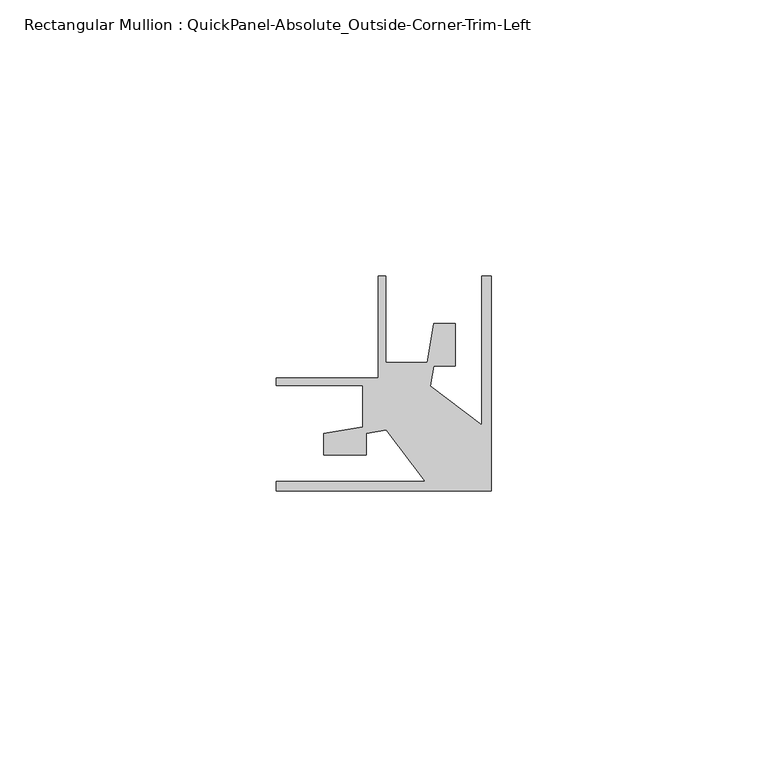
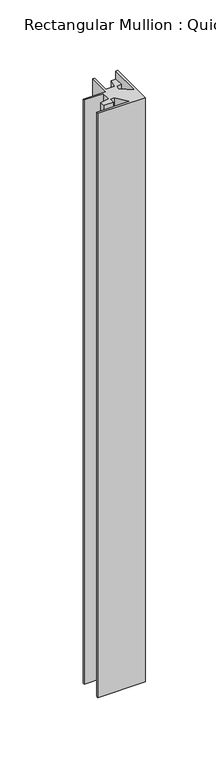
"""IFC4 building model written with IfcOpenShell, lengths in millimetres: member geometry, Rectangular Mullion : QuickPanel-Absolute_Outside-Corner-Trim-Left."""

from ifc_helpers import new_model, si_unit, frame, origin, place, context, project, spatial, polyline, outline, extrude, source, transform, mapped, element, save


def rectangular_mullion_quickpanel_absolute_outside_corner_trim_44ce5f77(model_context):
    return source(origin(), model_context, "Body", "SweptSolid", [
        extrude(outline(polyline([(-11.9918292, -10.4985348), (-19.0342818, -1.1528845), (-22.6039877, -1.7648465), (-22.6039877, -5.6493034), (-30.3487608, -5.6493034), (-30.3487608, -1.8040245), (-23.2634067, -0.5893678), (-23.2634067, 6.8797084), (-38.9299221, 6.8797084), (-38.9299221, 8.279737), (-20.4601097, 8.279737), (-20.4601097, 26.7495494), (-19.0600811, 26.7495494), (-19.0600811, 11.083034), (-11.5910049, 11.083034), (-10.3763482, 18.168388), (-6.5310693, 18.168388), (-6.5310693, 10.423615), (-10.4155262, 10.423615), (-11.0274882, 6.8539091), (-1.6818379, -0.1885435), (-1.6818379, 26.7495494), (0.0, 26.7495494), (0.0, -12.1803727), (-38.9299221, -12.1803727), (-38.9299221, -10.4985348), (-11.9918292, -10.4985348)])), frame((0.0, 0.0, -506.7037574), z_axis=(0.0, 0.0, 1.0), x_axis=(1.0, 0.0, 0.0)), (0.0, 0.0, 1.0), 506.7037574),
    ])


if __name__ == "__main__":
    model = new_model("IFC4")
    model_context = context("Model", 3, world=origin())
    ifc_project = project(units=[si_unit("LENGTHUNIT", "METRE", prefix="MILLI")], contexts=[model_context])
    site = spatial("IfcSite", under=ifc_project)
    building = spatial("IfcBuilding", under=site)
    placement = place(None, origin())
    rectangular_mullion_quickpanel_absolute_outside_corner_trim_shape = rectangular_mullion_quickpanel_absolute_outside_corner_trim_44ce5f77(model_context)
    element("IfcMember", 1, ObjectType="Rectangular Mullion : QuickPanel-Absolute_Outside-Corner-Trim-Left", at=placement, inside=building, context=model_context, shape_type="MappedRepresentation", body=[
        mapped(rectangular_mullion_quickpanel_absolute_outside_corner_trim_shape, transform((0.0, 0.0, 0.0), x_axis=(1.0, 0.0, 0.0), y_axis=(0.0, 1.0, 0.0), z_axis=(0.0, 0.0, 1.0))),
    ])
    save(model, "model.ifc")
